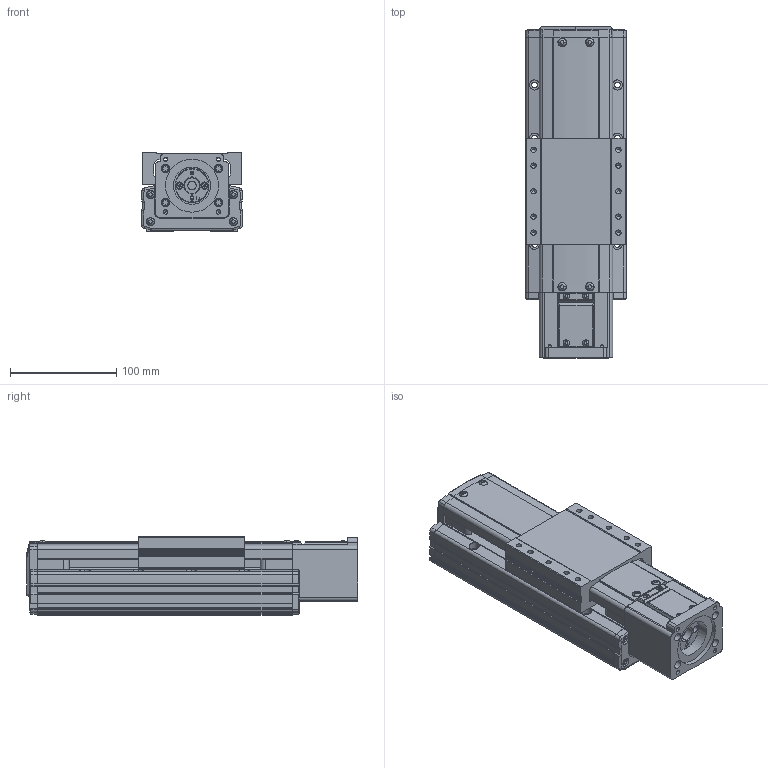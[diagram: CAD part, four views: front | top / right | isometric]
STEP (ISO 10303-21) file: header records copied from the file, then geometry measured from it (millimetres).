
FILE_DESCRIPTION(('STEP AP214'),'1');
FILE_NAME('Z:/Web/3D/PSA95/STP/PSA95-050 (3D)/PSA95ㅁㅁ-050S.stp','2014-07-02T23:29:26',(' '),(' '),'Spatial InterOp 3D',' ',' ');
FILE_SCHEMA(('automotive_design'));
Length unit declared in the file: millimetre
Products named in the file (35): BASE; RRCV; 스크루 : Round - M4.0 x 10.0; 너트 : Square - M10.0 x 220.7419; RR1500; FRCV-090; 스크루 : Round - M4.0 x 6.0; SLBL-PA90; SSFX-SAN65; CPLCV-SAN65; 스크루 : Round - M3.0 x 6.0; MTHZ-PA70/90-S60A-3; 스크루 : Socket - M4.0 x 20.0; NONE
Bounding box: 95 x 312.5 x 74 mm (x, y, z)
Volume: 1635459.3 mm3; surface area: 247739.3 mm2
Topology: 35 solids, 69 shells, 2893 faces, 7404 edges, 4693 vertices
Faces by surface type: plane 1448, cylinder 880, cone 329, torus 158, sphere 46, bspline 32
Entity records: 114386 total; most frequent: CARTESIAN_POINT 19008, DIRECTION 15522, ORIENTED_EDGE 14628, EDGE_CURVE 7314, AXIS2_PLACEMENT_3D 5521, VERTEX_POINT 4693, LINE 4480, VECTOR 4480
